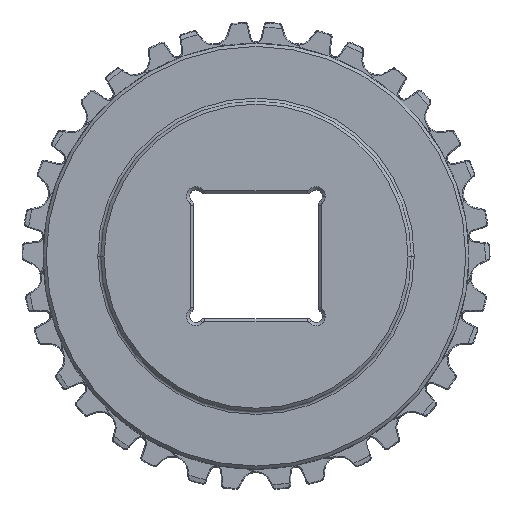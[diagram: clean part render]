
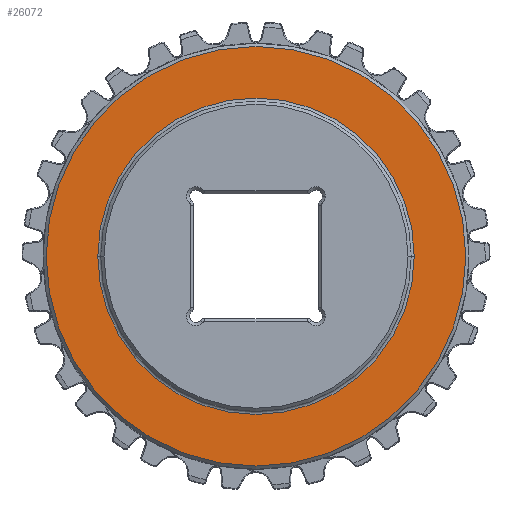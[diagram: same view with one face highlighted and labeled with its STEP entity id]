
A CAD part, top view. The second image highlights one B-rep face of the part: STEP entity #26072.
In plain terms, the highlighted planar face has unit normal (0, 0, 1).
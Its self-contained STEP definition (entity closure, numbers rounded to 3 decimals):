
#7 = EDGE_LOOP ( 'NONE', ( #43543, #26090 ) ) ;
#700 = DIRECTION ( 'NONE',  ( 1., 0., 0. ) ) ;
#3757 = VERTEX_POINT ( 'NONE', #12889 ) ;
#4927 = CARTESIAN_POINT ( 'NONE',  ( 0., 0., 5. ) ) ;
#5019 = CIRCLE ( 'NONE', #41809, 51. ) ;
#5084 = DIRECTION ( 'NONE',  ( 1., 0., 0. ) ) ;
#9819 = AXIS2_PLACEMENT_3D ( 'NONE', #4927, #16114, #5084 ) ;
#11109 = VERTEX_POINT ( 'NONE', #45558 ) ;
#11165 = DIRECTION ( 'NONE',  ( 0., 0., 1. ) ) ;
#11747 = ORIENTED_EDGE ( 'NONE', *, *, #13782, .T. ) ;
#12362 = DIRECTION ( 'NONE',  ( 1., 0., 0. ) ) ;
#12889 = CARTESIAN_POINT ( 'NONE',  ( -67.621, 0., 5. ) ) ;
#13466 = AXIS2_PLACEMENT_3D ( 'NONE', #35691, #11165, #700 ) ;
#13782 = EDGE_CURVE ( 'NONE', #3757, #11109, #28066, .T. ) ;
#13898 = DIRECTION ( 'NONE',  ( 1., 0., 0. ) ) ;
#16114 = DIRECTION ( 'NONE',  ( 0., 0., 1. ) ) ;
#17240 = PLANE ( 'NONE',  #38920 ) ;
#20844 = DIRECTION ( 'NONE',  ( 1., 0., 0. ) ) ;
#22899 = EDGE_CURVE ( 'NONE', #37218, #45155, #25203, .T. ) ;
#25203 = CIRCLE ( 'NONE', #38796, 51. ) ;
#26072 = ADVANCED_FACE ( 'NONE', ( #34929, #28285 ), #17240, .T. ) ;
#26090 = ORIENTED_EDGE ( 'NONE', *, *, #30613, .T. ) ;
#28066 = CIRCLE ( 'NONE', #13466, 67.621 ) ;
#28285 = FACE_OUTER_BOUND ( 'NONE', #38877, .T. ) ;
#30613 = EDGE_CURVE ( 'NONE', #45155, #37218, #5019, .T. ) ;
#31064 = CARTESIAN_POINT ( 'NONE',  ( 0., 0., 5. ) ) ;
#33362 = ORIENTED_EDGE ( 'NONE', *, *, #42770, .T. ) ;
#34929 = FACE_BOUND ( 'NONE', #7, .T. ) ;
#35063 = CARTESIAN_POINT ( 'NONE',  ( 51., 0., 5. ) ) ;
#35691 = CARTESIAN_POINT ( 'NONE',  ( 0., 0., 5. ) ) ;
#35786 = DIRECTION ( 'NONE',  ( 0., 0., -1. ) ) ;
#37218 = VERTEX_POINT ( 'NONE', #35063 ) ;
#38268 = CIRCLE ( 'NONE', #9819, 67.621 ) ;
#38796 = AXIS2_PLACEMENT_3D ( 'NONE', #40978, #44553, #12362 ) ;
#38877 = EDGE_LOOP ( 'NONE', ( #11747, #33362 ) ) ;
#38920 = AXIS2_PLACEMENT_3D ( 'NONE', #31064, #42113, #20844 ) ;
#39055 = CARTESIAN_POINT ( 'NONE',  ( 0., 0., 5. ) ) ;
#40691 = CARTESIAN_POINT ( 'NONE',  ( -51., 0., 5. ) ) ;
#40978 = CARTESIAN_POINT ( 'NONE',  ( 0., 0., 5. ) ) ;
#41809 = AXIS2_PLACEMENT_3D ( 'NONE', #39055, #35786, #13898 ) ;
#42113 = DIRECTION ( 'NONE',  ( 0., 0., 1. ) ) ;
#42770 = EDGE_CURVE ( 'NONE', #11109, #3757, #38268, .T. ) ;
#43543 = ORIENTED_EDGE ( 'NONE', *, *, #22899, .T. ) ;
#44553 = DIRECTION ( 'NONE',  ( 0., 0., -1. ) ) ;
#45155 = VERTEX_POINT ( 'NONE', #40691 ) ;
#45558 = CARTESIAN_POINT ( 'NONE',  ( 67.621, 0., 5. ) ) ;
